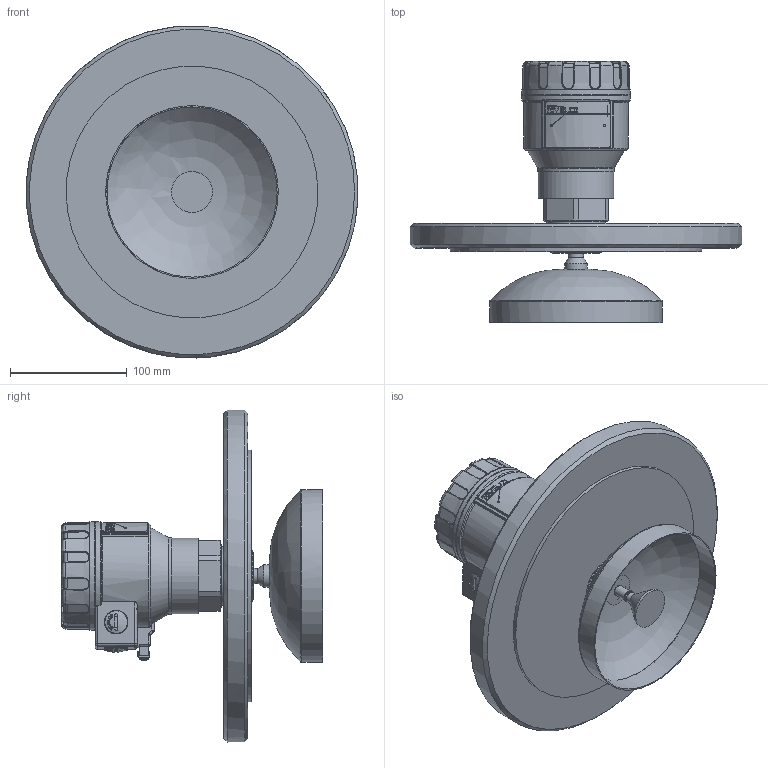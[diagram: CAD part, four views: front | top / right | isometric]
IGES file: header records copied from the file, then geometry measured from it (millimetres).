
Global section: file name: WES_119_Mű,; native system: Autodesk Inventor 2015; preprocessor: unknown; author: aantal; date: 20150306.114250; units: millimetre
Bounding box: 284.61 x 224.1 x 284.88 mm (x, y, z)
Volume: 2331295.6 mm3; surface area: 301974 mm2
Topology: 12 solids, 12 shells, 1292 faces, 3225 edges, 2002 vertices
Faces by surface type: bspline 1292
